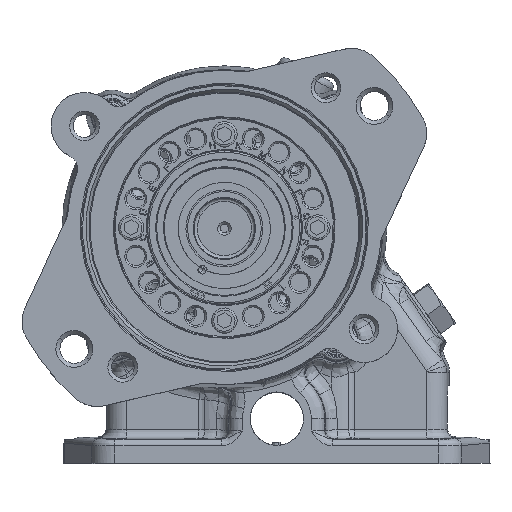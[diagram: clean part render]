
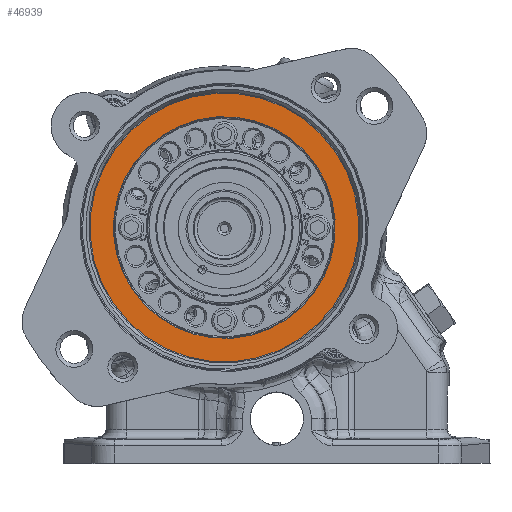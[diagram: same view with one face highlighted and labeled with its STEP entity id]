
A CAD part, top view. The second image highlights one B-rep face of the part: STEP entity #46939.
In plain terms, the highlighted planar face has unit normal (0, 0, 1).
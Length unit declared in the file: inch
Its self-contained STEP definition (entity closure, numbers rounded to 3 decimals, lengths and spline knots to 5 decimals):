
#214 = DIRECTION ( 'NONE',  ( 1., 0., 0. ) ) ;
#397 = FACE_BOUND ( 'NONE', #4364, .T. ) ;
#2066 = PLANE ( 'NONE',  #16771 ) ;
#4364 = EDGE_LOOP ( 'NONE', ( #123916, #29736 ) ) ;
#10024 = DIRECTION ( 'NONE',  ( 1., 0., 0. ) ) ;
#12641 = DIRECTION ( 'NONE',  ( 0., 0., -1. ) ) ;
#13840 = DIRECTION ( 'NONE',  ( 0., 0., 1. ) ) ;
#16771 = AXIS2_PLACEMENT_3D ( 'NONE', #52334, #104302, #54010 ) ;
#18822 = DIRECTION ( 'NONE',  ( 0., 0., -1. ) ) ;
#19245 = CIRCLE ( 'NONE', #103595, 2.481 ) ;
#21608 = EDGE_CURVE ( 'NONE', #25651, #105994, #122954, .T. ) ;
#25651 = VERTEX_POINT ( 'NONE', #46328 ) ;
#28843 = ORIENTED_EDGE ( 'NONE', *, *, #136417, .T. ) ;
#29736 = ORIENTED_EDGE ( 'NONE', *, *, #21608, .T. ) ;
#35310 = EDGE_CURVE ( 'NONE', #44818, #142804, #160267, .T. ) ;
#39884 = DIRECTION ( 'NONE',  ( 1., 0., 0. ) ) ;
#43307 = AXIS2_PLACEMENT_3D ( 'NONE', #71469, #122560, #149815 ) ;
#44818 = VERTEX_POINT ( 'NONE', #137590 ) ;
#46328 = CARTESIAN_POINT ( 'NONE',  ( -2.04688, 0., -1.039 ) ) ;
#46939 = ADVANCED_FACE ( 'NONE', ( #118733, #397 ), #2066, .T. ) ;
#52334 = CARTESIAN_POINT ( 'NONE',  ( 0., 2.501, -1.039 ) ) ;
#54010 = DIRECTION ( 'NONE',  ( 1., 0., 0. ) ) ;
#63116 = CARTESIAN_POINT ( 'NONE',  ( 2.04688, 0., -1.039 ) ) ;
#64565 = CIRCLE ( 'NONE', #168027, 2.04688 ) ;
#71469 = CARTESIAN_POINT ( 'NONE',  ( 0., 0., -1.039 ) ) ;
#76742 = AXIS2_PLACEMENT_3D ( 'NONE', #130127, #12641, #39884 ) ;
#90169 = EDGE_CURVE ( 'NONE', #105994, #25651, #64565, .T. ) ;
#90477 = CARTESIAN_POINT ( 'NONE',  ( 0., 0., -1.039 ) ) ;
#101226 = CARTESIAN_POINT ( 'NONE',  ( 2.481, 0., -1.039 ) ) ;
#103595 = AXIS2_PLACEMENT_3D ( 'NONE', #90477, #13840, #214 ) ;
#104023 = ORIENTED_EDGE ( 'NONE', *, *, #35310, .T. ) ;
#104302 = DIRECTION ( 'NONE',  ( 0., 0., 1. ) ) ;
#105994 = VERTEX_POINT ( 'NONE', #63116 ) ;
#118733 = FACE_OUTER_BOUND ( 'NONE', #136207, .T. ) ;
#122560 = DIRECTION ( 'NONE',  ( 0., 0., 1. ) ) ;
#122954 = CIRCLE ( 'NONE', #76742, 2.04688 ) ;
#123916 = ORIENTED_EDGE ( 'NONE', *, *, #90169, .T. ) ;
#130127 = CARTESIAN_POINT ( 'NONE',  ( 0., 0., -1.039 ) ) ;
#135494 = CARTESIAN_POINT ( 'NONE',  ( 0., 0., -1.039 ) ) ;
#136207 = EDGE_LOOP ( 'NONE', ( #28843, #104023 ) ) ;
#136417 = EDGE_CURVE ( 'NONE', #142804, #44818, #19245, .T. ) ;
#137590 = CARTESIAN_POINT ( 'NONE',  ( -2.481, 0., -1.039 ) ) ;
#142804 = VERTEX_POINT ( 'NONE', #101226 ) ;
#149815 = DIRECTION ( 'NONE',  ( 1., 0., 0. ) ) ;
#160267 = CIRCLE ( 'NONE', #43307, 2.481 ) ;
#168027 = AXIS2_PLACEMENT_3D ( 'NONE', #135494, #18822, #10024 ) ;
